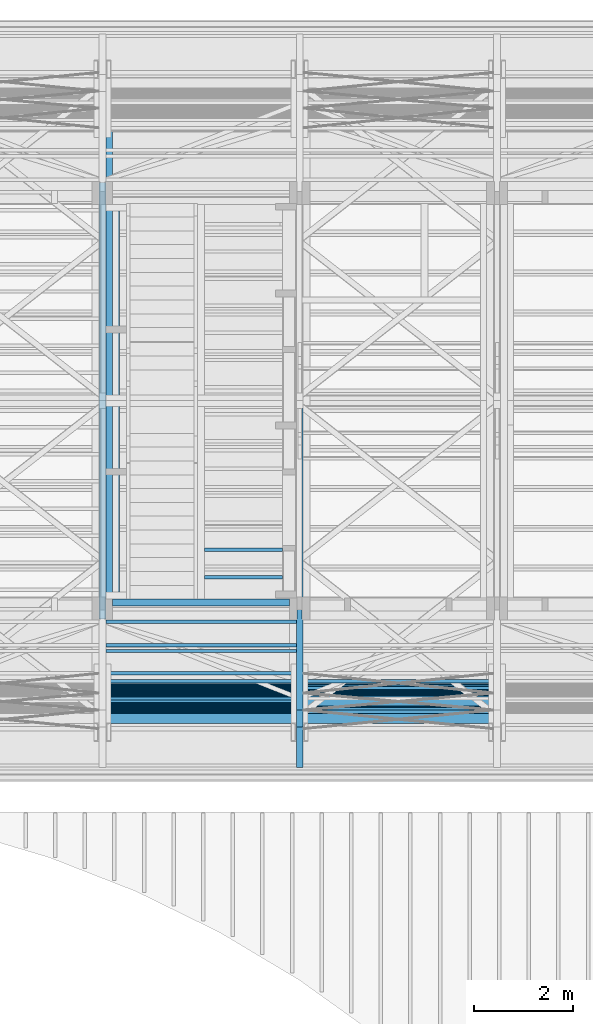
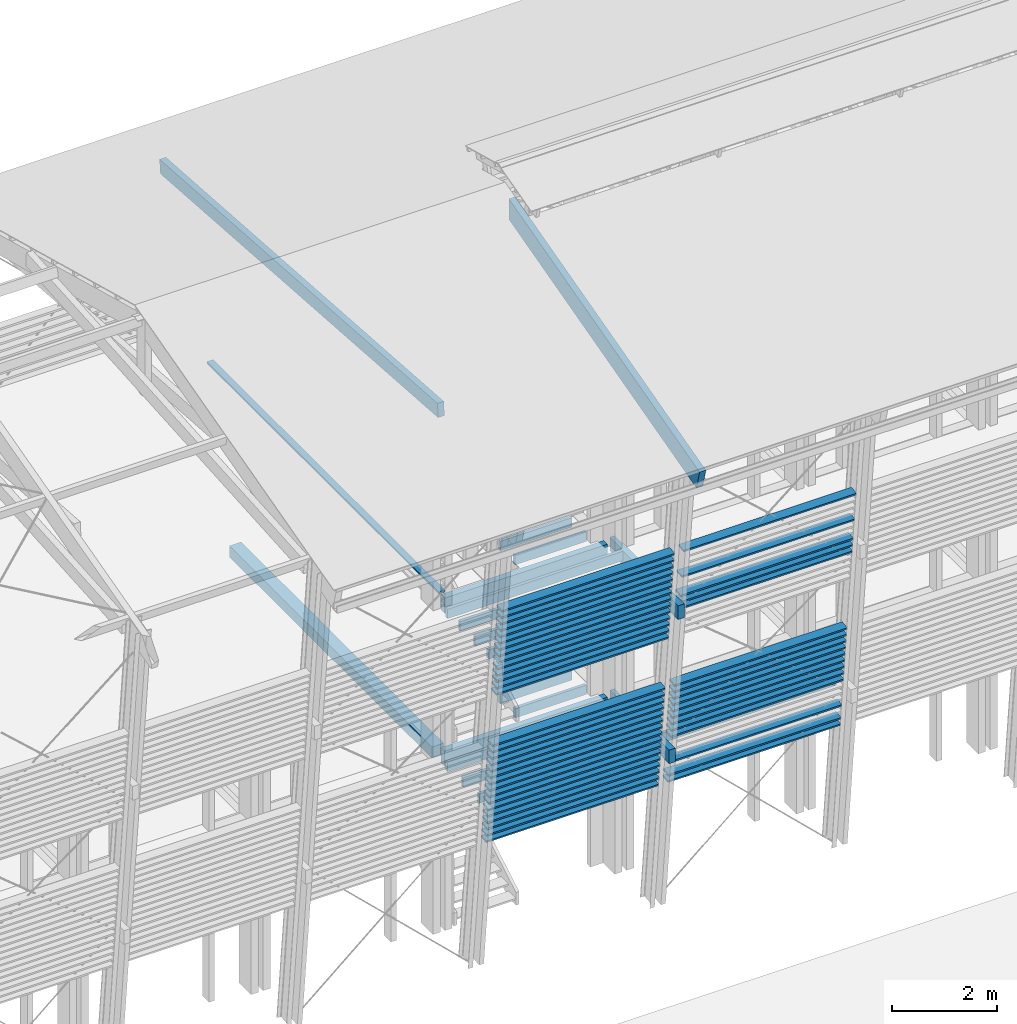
# One storey, part 9 of 48: 67 beams.
"""IFC2X3 building model written with IfcOpenShell, lengths in metres."""

import ifcopenshell
import ifcopenshell.guid

model = None  # the IFC model being written
_history = None  # IfcOwnerHistory: only IFC2X3 demands one
_inside = {}  # id of a spatial element -> (the spatial element, [elements in it])
_under = {}  # id of a project, library or spatial element -> (it, [spatial elements below it])
_declared = {}  # id of a project -> (the project, [libraries it declares])
_typed = {}  # id of a type object -> (the type object, [elements of that type])
_made_of = {}  # id of a material, layer set ... -> (it, [elements and type objects made of it])


def new_model(schema):
    """Start an empty IFC model of exactly this schema.

    Asked for "IFC4X3", IfcOpenShell would pick the latest addendum, in which some entities
    have other attributes; the version numbers below select the first issue.
    IFC2X3 requires an IfcOwnerHistory on every rooted entity: one is made here for all.
    """
    global model, _history
    if schema == "IFC4X3":
        model = ifcopenshell.file(schema_version=(4, 3, 0, 0))
    else:
        model = ifcopenshell.file(schema=schema)
    _inside.clear()
    _under.clear()
    _declared.clear()
    _typed.clear()
    _made_of.clear()
    _history = None
    if model.schema == "IFC2X3":
        org = make("IfcOrganization", Name="unknown")
        user = make(
            "IfcPersonAndOrganization",
            ThePerson=make("IfcPerson", FamilyName="unknown"),
            TheOrganization=org,
        )
        app = make(
            "IfcApplication",
            ApplicationDeveloper=org,
            Version="unknown",
            ApplicationFullName="unknown",
            ApplicationIdentifier="unknown",
        )
        _history = make(
            "IfcOwnerHistory",
            OwningUser=user,
            OwningApplication=app,
            ChangeAction="ADDED",
            CreationDate=0,
        )
    return model


def make(cls, **values):
    """One entity of the class cls with the attributes given. An attribute that is None is left unset."""
    return model.create_entity(
        cls, **{name: value for name, value in values.items() if value is not None}
    )


def rooted(cls, **values):
    """An entity with a GlobalId (a new one), such as an element, a storey or a relation."""
    return make(cls, GlobalId=ifcopenshell.guid.new(), OwnerHistory=_history, **values)


def si_unit(unit_type, name, prefix=None):
    """IfcSIUnit, for example si_unit("LENGTHUNIT", "METRE", prefix="MILLI")."""
    return make("IfcSIUnit", UnitType=unit_type, Prefix=prefix, Name=name)


def assignment(units):
    """IfcUnitAssignment: the units of a project."""
    return None if units is None else make("IfcUnitAssignment", Units=units)


def point(xyz):
    """IfcCartesianPoint."""
    return None if xyz is None else make("IfcCartesianPoint", Coordinates=xyz)


def direction(xyz):
    """IfcDirection."""
    return None if xyz is None else make("IfcDirection", DirectionRatios=xyz)


def frame(location, z_axis=None, x_axis=None):
    """IfcAxis2Placement3D, a coordinate frame: its origin and axes. An axis left out is left unset."""
    return make(
        "IfcAxis2Placement3D",
        Location=point(location),
        Axis=direction(z_axis),
        RefDirection=direction(x_axis),
    )


def origin_with_axes():
    """The frame at (0, 0, 0) with the z axis (0, 0, 1) and the x axis (1, 0, 0) written out."""
    return frame((0.0, 0.0, 0.0), z_axis=(0.0, 0.0, 1.0), x_axis=(1.0, 0.0, 0.0))


def place(relative_to, where):
    """IfcLocalPlacement: puts the frame where relative to a parent placement (None: the world)."""
    return make(
        "IfcLocalPlacement", PlacementRelTo=relative_to, RelativePlacement=where
    )


def context(
    kind, dimensions, precision=None, world=None, true_north=None, identifier=None
):
    """IfcGeometricRepresentationContext, for example the 3D "Model" context."""
    return make(
        "IfcGeometricRepresentationContext",
        ContextIdentifier=identifier,
        ContextType=kind,
        CoordinateSpaceDimension=dimensions,
        Precision=precision,
        WorldCoordinateSystem=world,
        TrueNorth=true_north,
    )


def subcontext(parent, identifier, kind, view, scale=None):
    """IfcGeometricRepresentationSubContext, for example "Body" below "Model"."""
    return make(
        "IfcGeometricRepresentationSubContext",
        ContextIdentifier=identifier,
        ContextType=kind,
        ParentContext=parent,
        TargetScale=scale,
        TargetView=view,
    )


def project(units=None, contexts=None):
    """IfcProject with its units and contexts."""
    return rooted(
        "IfcProject",
        Name="project",
        RepresentationContexts=contexts,
        UnitsInContext=assignment(units),
    )


def spatial(cls, under=None, at=None, **own):
    """A site, building, storey or space (cls), placed at a placement, below another one or the project."""
    s = rooted(cls, ObjectPlacement=at, **own)
    if under is not None:
        _under.setdefault(under.id(), (under, []))[1].append(s)
    return s


def faces_of(points, faces, orient=None, outer=None):
    """IfcFace entities. A face is a list of loops; a loop is a list of indices into points, from 0.

    orient and outer hold one flag for each loop. By default every Orientation is true, the
    first loop of a face is its IfcFaceOuterBound and the others are IfcFaceBound.
    """
    made = []
    for i, loops in enumerate(faces):
        bounds = []
        for j, loop in enumerate(loops):
            is_outer = j == 0 if outer is None else outer[i][j]
            bounds.append(
                make(
                    "IfcFaceOuterBound" if is_outer else "IfcFaceBound",
                    Bound=make("IfcPolyLoop", Polygon=[points[k] for k in loop]),
                    Orientation=True if orient is None else orient[i][j],
                )
            )
        made.append(make("IfcFace", Bounds=bounds))
    return made


def faceted_brep(points, faces, orient=None, outer=None, voids=None):
    """IfcFacetedBrep: a solid bounded by flat faces; with voids (closed shells), ...WithVoids."""
    shared = [point(p) for p in points]
    hull = make("IfcClosedShell", CfsFaces=faces_of(shared, faces, orient, outer))
    if voids is None:
        return make("IfcFacetedBrep", Outer=hull)
    return make(
        "IfcFacetedBrepWithVoids",
        Outer=hull,
        Voids=[
            make(cls, CfsFaces=faces_of(shared, fs, o, b)) for cls, fs, o, b in voids
        ],
    )


def shape(context_of_items, identifier, shape_type, items):
    """IfcShapeRepresentation: the items that make up one representation, for example the "Body"."""
    return make(
        "IfcShapeRepresentation",
        ContextOfItems=context_of_items,
        RepresentationIdentifier=identifier,
        RepresentationType=shape_type,
        Items=items,
    )


def material(Name=None, Category=None):
    """IfcMaterial."""
    return make("IfcMaterial", Name=Name, Category=Category)


def made_of(thing, what):
    """Note that an element or type object is made of a material, layer set ...; save() writes the relation."""
    if what is not None:
        _made_of.setdefault(what.id(), (what, []))[1].append(thing)
    return thing


def element(
    cls,
    number,
    at=None,
    inside=None,
    cuts=None,
    type_object=None,
    material=None,
    context=None,
    identifier="Body",
    shape_type=None,
    held_by="IfcProductDefinitionShape",
    body=None,
    shapes=None,
    **own,
):
    """One element of the class cls, such as IfcWall. Its Tag is "e" and its number.

    at: its placement. inside: the storey or other place that contains it. cuts: it is an
    opening in that element (IfcRelVoidsElement). A single representation is given by context,
    identifier, shape_type and body (its items); several are given by shapes. held_by: the class
    of the entity that holds the representations. save() writes the other relations.
    """
    e = rooted(cls, Tag="e%d" % number, ObjectPlacement=at, **own)
    if body is not None:
        shapes = [shape(context, identifier, shape_type, body)]
    if shapes is not None:
        e.Representation = make(held_by, Representations=shapes)
    if inside is not None:
        _inside.setdefault(inside.id(), (inside, []))[1].append(e)
    if cuts is not None:
        rooted(
            "IfcRelVoidsElement", RelatingBuildingElement=cuts, RelatedOpeningElement=e
        )
    if type_object is not None:
        _typed.setdefault(type_object.id(), (type_object, []))[1].append(e)
    return made_of(e, material)


def aggregate(whole, parts):
    """IfcRelAggregates: a whole, such as a stair, and the parts it consists of."""
    return rooted("IfcRelAggregates", RelatingObject=whole, RelatedObjects=parts)


def save(model, path):
    """Write the relations noted so far, then the file.

    IfcRelAggregates (storeys below a building ...), IfcRelContainedInSpatialStructure (elements
    in a storey), IfcRelDefinesByType, IfcRelAssociatesMaterial and IfcRelDeclares: one each for
    every whole, place, type object, material and project.
    """
    for whole, parts in _under.values():
        aggregate(whole, parts)
    for where, things in _inside.values():
        rooted(
            "IfcRelContainedInSpatialStructure",
            RelatedElements=things,
            RelatingStructure=where,
        )
    for kind, things in _typed.values():
        rooted("IfcRelDefinesByType", RelatedObjects=things, RelatingType=kind)
    for what, things in _made_of.values():
        rooted("IfcRelAssociatesMaterial", RelatedObjects=things, RelatingMaterial=what)
    for by, libraries in _declared.values():
        rooted("IfcRelDeclares", RelatingContext=by, RelatedDefinitions=libraries)
    model.write(path)


model = new_model("IFC2X3")

# Units and contexts
model_context = context("Model", 3, precision=1e-06, world=origin_with_axes(), true_north=direction((0.0, 1.0, 0.0)))
body_context = subcontext(model_context, "Body", "Model", "MODEL_VIEW")
ifc_project = project(units=[si_unit("LENGTHUNIT", "METRE"), si_unit("AREAUNIT", "SQUARE_METRE"), si_unit("VOLUMEUNIT", "CUBIC_METRE"), si_unit("PLANEANGLEUNIT", "RADIAN")], contexts=[model_context])

# Site, building, storey
site_placement = place(None, origin_with_axes())
site = spatial("IfcSite", under=ifc_project, at=site_placement, CompositionType="ELEMENT")
building_placement = place(site_placement, origin_with_axes())
building = spatial("IfcBuilding", under=site, at=building_placement, Name="Building 1", CompositionType="ELEMENT")
storey_placement = place(building_placement, origin_with_axes())
storey = spatial("IfcBuildingStorey", under=building, at=storey_placement, Name="Storey 1", CompositionType="ELEMENT", Elevation=0.0)

# Beams
ifc_material_1 = material(Name="Moabi")
beam_1_placement = place(storey_placement, frame((49.3927439, -195.1944166, 4.6912503), z_axis=(0.0, 0.9945219, 0.1045285), x_axis=(-1.0, 0.0, 0.0)))
element("IfcBeam", 1, at=beam_1_placement, inside=storey, material=ifc_material_1, Name="garde corp", context=body_context, shape_type="Brep", body=[
    faceted_brep([(3.8047069, 0.02, -0.1), (3.8047071, -0.02, -0.1), (0.0, -0.02, -0.1), (0.0, 0.02, -0.1), (3.8047071, -0.02, 0.1), (0.0, -0.02, 0.1), (3.8047071, 0.02, 0.1), (0.0, 0.02, 0.1)], [[[0, 1, 2, 3]], [[1, 4, 5, 2]], [[4, 6, 7, 5]], [[6, 0, 3, 7]], [[1, 0, 6, 4]], [[7, 3, 2, 5]]]),
])
beam_2_placement = place(storey_placement, frame((45.3927439, -195.2947639, 5.6459913), z_axis=(0.0, 0.9945219, 0.1045285), x_axis=(-1.0, 0.0, 0.0)))
element("IfcBeam", 2, at=beam_2_placement, inside=storey, material=ifc_material_1, Name="garde corp", context=body_context, shape_type="Brep", body=[
    faceted_brep([(3.8048055, 0.02, -0.1), (3.8048055, -0.02, -0.1), (0.0, -0.02, -0.1), (0.0, 0.02, -0.1), (3.8048055, -0.02, 0.1), (0.0, -0.02, 0.1), (3.8048055, 0.02, 0.1), (0.0, 0.02, 0.1)], [[[0, 1, 2, 3]], [[1, 4, 5, 2]], [[4, 6, 7, 5]], [[6, 0, 3, 7]], [[1, 0, 6, 4]], [[7, 3, 2, 5]]]),
])
ifc_material_2 = material(Name="GL28h")
beam_3_placement = place(storey_placement, frame((45.5597437, -194.898689, 4.139), z_axis=(0.0, 0.0, 1.0), x_axis=(1.0, 0.0, 0.0)))
element("IfcBeam", 3, at=beam_3_placement, inside=storey, material=ifc_material_2, Name="Solive", context=body_context, shape_type="Brep", body=[
    faceted_brep([(3.86, 0.035, 0.11), (3.86, 0.035, -0.11), (0.0, 0.035, -0.11), (0.0, 0.035, 0.11), (3.86, -0.035, -0.11), (0.0, -0.035, -0.11), (3.86, -0.035, 0.11), (0.0, -0.035, 0.11)], [[[0, 1, 2, 3]], [[1, 4, 5, 2]], [[4, 6, 7, 5]], [[6, 0, 3, 7]], [[1, 0, 6, 4]], [[7, 3, 2, 5]]]),
])
beam_4_placement = place(storey_placement, frame((45.3927441, -195.4954586, 7.5554733), z_axis=(0.0, 0.9945219, 0.1045285), x_axis=(-1.0, 0.0, 0.0)))
element("IfcBeam", 4, at=beam_4_placement, inside=storey, material=ifc_material_1, Name="garde corp", context=body_context, shape_type="Brep", body=[
    faceted_brep([(3.806, 0.02, -0.1), (3.806, -0.02, -0.1), (0.0, -0.02, -0.1), (0.0, 0.02, -0.1), (3.806, -0.02, 0.1), (0.0, -0.02, 0.1), (3.806, 0.02, 0.1), (0.0, 0.02, 0.1)], [[[0, 1, 2, 3]], [[1, 4, 5, 2]], [[4, 6, 7, 5]], [[6, 0, 3, 7]], [[1, 0, 6, 4]], [[7, 3, 2, 5]]]),
])
for number, where, z_axis, x_axis, name in (
    (5, (45.3927439, -195.1275184, 4.0547563), (0.0, 0.9945219, 0.1045285), (-1.0, 0.0, 0.0), "garde corp"),
    (6, (45.3927439, -195.1442429, 4.2138798), (0.0, 0.9945219, 0.1045285), (-1.0, 0.0, 0.0), "garde corp"),
):
    element("IfcBeam", number, at=place(storey_placement, frame(where, z_axis=z_axis, x_axis=x_axis)), inside=storey, material=ifc_material_1, Name=name, context=body_context, shape_type="Brep", body=[
        faceted_brep([(3.8048051, 0.02, -0.1), (3.8048051, -0.02, -0.1), (0.0, -0.02, -0.1), (0.0, 0.02, -0.1), (3.8048051, -0.02, 0.1), (0.0, -0.02, 0.1), (3.8048051, 0.02, 0.1), (0.0, 0.02, 0.1)], [[[0, 1, 2, 3]], [[1, 4, 5, 2]], [[4, 6, 7, 5]], [[6, 0, 3, 7]], [[1, 0, 6, 4]], [[7, 3, 2, 5]]]),
    ])
beam_5_placement = place(storey_placement, frame((45.4897437, -193.1896515, 4.089), z_axis=(0.0, 0.0, 1.0), x_axis=(0.0, -1.0, 0.0)))
element("IfcBeam", 7, at=beam_5_placement, inside=storey, material=ifc_material_2, Name="Sommier Coursive", context=body_context, shape_type="Brep", body=[
    faceted_brep([(0.0, 0.05, 0.16), (0.44, 0.05, 0.16), (0.44, 0.05, -0.16), (0.0, 0.05, -0.16), (0.44, 0.07, 0.16), (0.44, 0.07, -0.16), (0.0, -0.05, 0.16), (0.44, -0.05, 0.16), (0.44, -0.07, 0.16), (2.2900003, -0.07, 0.16), (2.2900003, 0.07, 0.16), (0.0, -0.05, -0.16), (0.44, -0.05, -0.16), (0.44, -0.07, -0.16), (2.2900003, 0.07, -0.16), (2.2900003, -0.07, -0.16)], [[[0, 1, 2, 3]], [[1, 4, 5, 2]], [[4, 1, 0, 6, 7, 8, 9, 10]], [[0, 3, 11, 6]], [[11, 12, 7, 6]], [[12, 13, 8, 7]], [[2, 5, 14, 15, 13, 12, 11, 3]], [[8, 13, 15, 9]], [[5, 4, 10, 14]], [[10, 9, 15, 14]]]),
])
beam_6_placement = place(storey_placement, frame((43.5597437, -192.7830698, 7.699), z_axis=(0.0, 0.0, 1.0), x_axis=(1.0, 0.0, 0.0)))
element("IfcBeam", 8, at=beam_6_placement, inside=storey, material=ifc_material_2, Name="Solive", context=body_context, shape_type="Brep", body=[
    faceted_brep([(1.58, 0.035, -0.11), (1.58, -0.035, -0.11), (0.0, -0.035, -0.11), (0.0, 0.035, -0.11), (1.58, -0.035, 0.11), (0.0, -0.035, 0.11), (1.58, 0.035, 0.11), (0.0, 0.035, 0.11)], [[[0, 1, 2, 3]], [[1, 4, 5, 2]], [[4, 6, 7, 5]], [[6, 0, 3, 7]], [[0, 6, 4, 1]], [[5, 7, 3, 2]]]),
])
beam_7_placement = place(storey_placement, frame((45.3927441, -195.5121831, 7.7145968), z_axis=(0.0, 0.9945219, 0.1045285), x_axis=(-1.0, 0.0, 0.0)))
element("IfcBeam", 9, at=beam_7_placement, inside=storey, material=ifc_material_1, Name="garde corp", context=body_context, shape_type="Brep", body=[
    faceted_brep([(3.806, 0.02, -0.1), (3.806, -0.02, -0.1), (0.0, -0.02, -0.1), (0.0, 0.02, -0.1), (3.806, -0.02, 0.1), (0.0, -0.02, 0.1), (3.806, 0.02, 0.1), (0.0, 0.02, 0.1)], [[[0, 1, 2, 3]], [[1, 4, 5, 2]], [[4, 6, 7, 5]], [[6, 0, 3, 7]], [[1, 0, 6, 4]], [[7, 3, 2, 5]]]),
])
beam_8_placement = place(storey_placement, frame((45.3927439, -195.1944166, 4.6912503), z_axis=(0.0, 0.9945219, 0.1045285), x_axis=(-1.0, 0.0, 0.0)))
element("IfcBeam", 10, at=beam_8_placement, inside=storey, material=ifc_material_1, Name="garde corp", context=body_context, shape_type="Brep", body=[
    faceted_brep([(3.8047069, 0.02, -0.1), (3.8047071, -0.02, -0.1), (0.0, -0.02, -0.1), (0.0, 0.02, -0.1), (3.8047071, -0.02, 0.1), (0.0, -0.02, 0.1), (3.8047071, 0.02, 0.1), (0.0, 0.02, 0.1)], [[[0, 1, 2, 3]], [[1, 4, 5, 2]], [[4, 6, 7, 5]], [[6, 0, 3, 7]], [[1, 0, 6, 4]], [[7, 3, 2, 5]]]),
])
beam_9_placement = place(storey_placement, frame((45.3927439, -195.2278657, 5.0094973), z_axis=(0.0, 0.9945219, 0.1045285), x_axis=(-1.0, 0.0, 0.0)))
element("IfcBeam", 11, at=beam_9_placement, inside=storey, material=ifc_material_1, Name="garde corp", context=body_context, shape_type="Brep", body=[
    faceted_brep([(3.8047069, 0.02, -0.1), (3.8047071, -0.02, -0.1), (0.0, -0.02, -0.1), (0.0, 0.02, -0.1), (3.8047069, -0.02, 0.1), (0.0, -0.02, 0.1), (3.8047071, 0.02, 0.1), (0.0, 0.02, 0.1)], [[[0, 1, 2, 3]], [[1, 4, 5, 2]], [[4, 6, 7, 5]], [[6, 0, 3, 7]], [[1, 0, 6, 4]], [[7, 3, 2, 5]]]),
])
beam_10_placement = place(storey_placement, frame((49.3927439, -195.0940693, 3.7365093), z_axis=(0.0, 0.9945219, 0.1045285), x_axis=(-1.0, 0.0, 0.0)))
element("IfcBeam", 12, at=beam_10_placement, inside=storey, material=ifc_material_1, Name="garde corp", context=body_context, shape_type="Brep", body=[
    faceted_brep([(3.8047069, 0.02, -0.1), (3.8047071, -0.02, -0.1), (0.0, -0.02, -0.1), (0.0, 0.02, -0.1), (3.8047071, -0.02, 0.1), (0.0, -0.02, 0.1), (3.8047071, 0.02, 0.1), (0.0, 0.02, 0.1)], [[[0, 1, 2, 3]], [[1, 4, 5, 2]], [[4, 6, 7, 5]], [[6, 0, 3, 7]], [[1, 0, 6, 4]], [[7, 3, 2, 5]]]),
])
beam_11_placement = place(storey_placement, frame((49.3927439, -195.1609675, 4.3730033), z_axis=(0.0, 0.9945219, 0.1045285), x_axis=(-1.0, 0.0, 0.0)))
element("IfcBeam", 13, at=beam_11_placement, inside=storey, material=ifc_material_1, Name="garde corp", context=body_context, shape_type="Brep", body=[
    faceted_brep([(3.8048051, 0.02, -0.1), (3.8048051, -0.02, -0.1), (0.0, -0.02, -0.1), (0.0, 0.02, -0.1), (3.8048051, -0.02, 0.1), (0.0, -0.02, 0.1), (3.8048051, 0.02, 0.1), (0.0, 0.02, 0.1)], [[[0, 1, 2, 3]], [[1, 4, 5, 2]], [[4, 6, 7, 5]], [[6, 0, 3, 7]], [[1, 0, 6, 4]], [[7, 3, 2, 5]]]),
])
beam_12_placement = place(storey_placement, frame((49.3927439, -195.0606202, 3.4182623), z_axis=(0.0, 0.9945219, 0.1045285), x_axis=(-1.0, 0.0, 0.0)))
element("IfcBeam", 14, at=beam_12_placement, inside=storey, material=ifc_material_1, Name="garde corp", context=body_context, shape_type="Brep", body=[
    faceted_brep([(3.8047069, 0.02, -0.1), (3.8047069, -0.02, -0.1), (0.0, -0.02, -0.1), (0.0, 0.02, -0.1), (3.8047069, -0.02, 0.1), (0.0, -0.02, 0.1), (3.8047071, 0.02, 0.1), (0.0, 0.02, 0.1)], [[[0, 1, 2, 3]], [[1, 4, 5, 2]], [[4, 6, 7, 5]], [[6, 0, 3, 7]], [[1, 0, 6, 4]], [[7, 3, 2, 5]]]),
])
beam_13_placement = place(storey_placement, frame((49.3927441, -195.5289077, 7.8737203), z_axis=(0.0, 0.9945219, 0.1045285), x_axis=(-1.0, 0.0, 0.0)))
element("IfcBeam", 15, at=beam_13_placement, inside=storey, material=ifc_material_1, Name="garde corp", context=body_context, shape_type="Brep", body=[
    faceted_brep([(3.806, 0.02, -0.1), (3.806, -0.02, -0.1), (0.0, -0.02, -0.1), (0.0, 0.02, -0.1), (3.806, -0.02, 0.1), (0.0, -0.02, 0.1), (3.806, 0.02, 0.1), (0.0, 0.02, 0.1)], [[[0, 1, 2, 3]], [[1, 4, 5, 2]], [[4, 6, 7, 5]], [[6, 0, 3, 7]], [[1, 0, 6, 4]], [[7, 3, 2, 5]]]),
])
beam_14_placement = place(storey_placement, frame((49.3927439, -195.2613148, 5.3277443), z_axis=(0.0, 0.9945219, 0.1045285), x_axis=(-1.0, 0.0, 0.0)))
element("IfcBeam", 16, at=beam_14_placement, inside=storey, material=ifc_material_1, Name="garde corp", context=body_context, shape_type="Brep", body=[
    faceted_brep([(3.8048055, 0.02, -0.1), (3.8048055, -0.02, -0.1), (0.0, -0.02, -0.1), (0.0, 0.02, -0.1), (3.8048055, -0.02, 0.1), (0.0, -0.02, 0.1), (3.8048055, 0.02, 0.1), (0.0, 0.02, 0.1)], [[[0, 1, 2, 3]], [[1, 4, 5, 2]], [[4, 6, 7, 5]], [[6, 0, 3, 7]], [[1, 0, 6, 4]], [[7, 3, 2, 5]]]),
])
beam_15_placement = place(storey_placement, frame((49.3927439, -195.2278657, 5.0094973), z_axis=(0.0, 0.9945219, 0.1045285), x_axis=(-1.0, 0.0, 0.0)))
element("IfcBeam", 17, at=beam_15_placement, inside=storey, material=ifc_material_1, Name="garde corp", context=body_context, shape_type="Brep", body=[
    faceted_brep([(3.8047069, 0.02, -0.1), (3.8047071, -0.02, -0.1), (0.0, -0.02, -0.1), (0.0, 0.02, -0.1), (3.8047069, -0.02, 0.1), (0.0, -0.02, 0.1), (3.8047071, 0.02, 0.1), (0.0, 0.02, 0.1)], [[[0, 1, 2, 3]], [[1, 4, 5, 2]], [[4, 6, 7, 5]], [[6, 0, 3, 7]], [[1, 0, 6, 4]], [[7, 3, 2, 5]]]),
])
beam_16_placement = place(storey_placement, frame((49.3927437, -195.6459796, 8.9875849), z_axis=(0.0, 0.9945219, 0.1045285), x_axis=(-1.0, 0.0, 0.0)))
element("IfcBeam", 18, at=beam_16_placement, inside=storey, material=ifc_material_1, Name="garde corp", context=body_context, shape_type="Brep", body=[
    faceted_brep([(3.806, 0.02, -0.1), (3.806, -0.02, -0.1), (0.0, -0.02, -0.1), (0.0, 0.02, -0.1), (3.806, -0.02, 0.1), (0.0, -0.02, 0.1), (3.806, 0.02, 0.1), (0.0, 0.02, 0.1)], [[[0, 1, 2, 3]], [[1, 4, 5, 2]], [[4, 6, 7, 5]], [[6, 0, 3, 7]], [[1, 0, 6, 4]], [[7, 3, 2, 5]]]),
])
beam_17_placement = place(storey_placement, frame((49.3927439, -195.0438956, 3.2591388), z_axis=(0.0, 0.9945219, 0.1045285), x_axis=(-1.0, 0.0, 0.0)))
element("IfcBeam", 19, at=beam_17_placement, inside=storey, material=ifc_material_1, Name="garde corp", context=body_context, shape_type="Brep", body=[
    faceted_brep([(3.8048051, 0.02, -0.1), (3.8048051, -0.02, -0.1), (0.0, -0.02, -0.1), (0.0, 0.02, -0.1), (3.8048051, -0.02, 0.1), (0.0, -0.02, 0.1), (3.8048051, 0.02, 0.1), (0.0, 0.02, 0.1)], [[[0, 1, 2, 3]], [[1, 4, 5, 2]], [[4, 6, 7, 5]], [[6, 0, 3, 7]], [[1, 0, 6, 4]], [[7, 3, 2, 5]]]),
])
beam_18_placement = place(storey_placement, frame((49.3927439, -195.2111412, 4.8503738), z_axis=(0.0, 0.9945219, 0.1045285), x_axis=(-1.0, 0.0, 0.0)))
element("IfcBeam", 20, at=beam_18_placement, inside=storey, material=ifc_material_1, Name="garde corp", context=body_context, shape_type="Brep", body=[
    faceted_brep([(3.8048055, 0.02, -0.1), (3.8048055, -0.02, -0.1), (0.0, -0.02, -0.1), (0.0, 0.02, -0.1), (3.8048055, -0.02, 0.1), (0.0, -0.02, 0.1), (3.8048055, 0.02, 0.1), (0.0, 0.02, 0.1)], [[[0, 1, 2, 3]], [[1, 4, 5, 2]], [[4, 6, 7, 5]], [[6, 0, 3, 7]], [[1, 0, 6, 4]], [[7, 3, 2, 5]]]),
])
beam_19_placement = place(storey_placement, frame((49.3927439, -195.2780394, 5.4868678), z_axis=(0.0, 0.9945219, 0.1045285), x_axis=(-1.0, 0.0, 0.0)))
element("IfcBeam", 21, at=beam_19_placement, inside=storey, material=ifc_material_1, Name="garde corp", context=body_context, shape_type="Brep", body=[
    faceted_brep([(3.8047069, 0.02, -0.1), (3.8047069, -0.02, -0.1), (0.0, -0.02, -0.1), (0.0, 0.02, -0.1), (3.8047069, -0.02, 0.1), (0.0, -0.02, 0.1), (3.8047071, 0.02, 0.1), (0.0, 0.02, 0.1)], [[[0, 1, 2, 3]], [[1, 4, 5, 2]], [[4, 6, 7, 5]], [[6, 0, 3, 7]], [[1, 0, 6, 4]], [[7, 3, 2, 5]]]),
])
for number, where, z_axis, x_axis, name in (
    (22, (45.3927441, -195.5790813, 8.3510909), (0.0, 0.9945219, 0.1045285), (-1.0, 0.0, 0.0), "garde corp"),
    (23, (49.3927441, -195.5121831, 7.7145968), (0.0, 0.9945219, 0.1045285), (-1.0, 0.0, 0.0), "garde corp"),
):
    element("IfcBeam", number, at=place(storey_placement, frame(where, z_axis=z_axis, x_axis=x_axis)), inside=storey, material=ifc_material_1, Name=name, context=body_context, shape_type="Brep", body=[
        faceted_brep([(3.806, 0.02, -0.1), (3.806, -0.02, -0.1), (0.0, -0.02, -0.1), (0.0, 0.02, -0.1), (3.806, -0.02, 0.1), (0.0, -0.02, 0.1), (3.806, 0.02, 0.1), (0.0, 0.02, 0.1)], [[[0, 1, 2, 3]], [[1, 4, 5, 2]], [[4, 6, 7, 5]], [[6, 0, 3, 7]], [[1, 0, 6, 4]], [[7, 3, 2, 5]]]),
    ])
beam_20_placement = place(storey_placement, frame((49.3927439, -195.2445903, 5.1686208), z_axis=(0.0, 0.9945219, 0.1045285), x_axis=(-1.0, 0.0, 0.0)))
element("IfcBeam", 24, at=beam_20_placement, inside=storey, material=ifc_material_1, Name="garde corp", context=body_context, shape_type="Brep", body=[
    faceted_brep([(3.8048055, 0.02, -0.1), (3.8048055, -0.02, -0.1), (0.0, -0.02, -0.1), (0.0, 0.02, -0.1), (3.8048055, -0.02, 0.1), (0.0, -0.02, 0.1), (3.8048055, 0.02, 0.1), (0.0, 0.02, 0.1)], [[[0, 1, 2, 3]], [[1, 4, 5, 2]], [[4, 6, 7, 5]], [[6, 0, 3, 7]], [[1, 0, 6, 4]], [[7, 3, 2, 5]]]),
])
for number, where, z_axis, x_axis, name in (
    (25, (49.3927441, -195.5790813, 8.3510909), (0.0, 0.9945219, 0.1045285), (-1.0, 0.0, 0.0), "garde corp"),
    (26, (49.3927441, -195.4954586, 7.5554733), (0.0, 0.9945219, 0.1045285), (-1.0, 0.0, 0.0), "garde corp"),
):
    element("IfcBeam", number, at=place(storey_placement, frame(where, z_axis=z_axis, x_axis=x_axis)), inside=storey, material=ifc_material_1, Name=name, context=body_context, shape_type="Brep", body=[
        faceted_brep([(3.806, 0.02, -0.1), (3.806, -0.02, -0.1), (0.0, -0.02, -0.1), (0.0, 0.02, -0.1), (3.806, -0.02, 0.1), (0.0, -0.02, 0.1), (3.806, 0.02, 0.1), (0.0, 0.02, 0.1)], [[[0, 1, 2, 3]], [[1, 4, 5, 2]], [[4, 6, 7, 5]], [[6, 0, 3, 7]], [[1, 0, 6, 4]], [[7, 3, 2, 5]]]),
    ])
beam_21_placement = place(storey_placement, frame((49.3927439, -195.177692, 4.5321268), z_axis=(0.0, 0.9945219, 0.1045285), x_axis=(-1.0, 0.0, 0.0)))
element("IfcBeam", 27, at=beam_21_placement, inside=storey, material=ifc_material_1, Name="garde corp", context=body_context, shape_type="Brep", body=[
    faceted_brep([(3.8047069, 0.02, -0.1), (3.8047071, -0.02, -0.1), (0.0, -0.02, -0.1), (0.0, 0.02, -0.1), (3.8047069, -0.02, 0.1), (0.0, -0.02, 0.1), (3.8047071, 0.02, 0.1), (0.0, 0.02, 0.1)], [[[0, 1, 2, 3]], [[1, 4, 5, 2]], [[4, 6, 7, 5]], [[6, 0, 3, 7]], [[1, 0, 6, 4]], [[7, 3, 2, 5]]]),
])
beam_22_placement = place(storey_placement, frame((49.3927439, -195.2947639, 5.6459913), z_axis=(0.0, 0.9945219, 0.1045285), x_axis=(-1.0, 0.0, 0.0)))
element("IfcBeam", 28, at=beam_22_placement, inside=storey, material=ifc_material_1, Name="garde corp", context=body_context, shape_type="Brep", body=[
    faceted_brep([(3.8048055, 0.02, -0.1), (3.8048055, -0.02, -0.1), (0.0, -0.02, -0.1), (0.0, 0.02, -0.1), (3.8048055, -0.02, 0.1), (0.0, -0.02, 0.1), (3.8048055, 0.02, 0.1), (0.0, 0.02, 0.1)], [[[0, 1, 2, 3]], [[1, 4, 5, 2]], [[4, 6, 7, 5]], [[6, 0, 3, 7]], [[1, 0, 6, 4]], [[7, 3, 2, 5]]]),
])
beam_23_placement = place(storey_placement, frame((41.4897441, -184.7864885, 8.182), z_axis=(1.0, 0.0, 0.0), x_axis=(0.0, -1.0, 0.0)))
element("IfcBeam", 29, at=beam_23_placement, inside=storey, material=ifc_material_1, Name="garde corp", context=body_context, shape_type="Brep", body=[
    faceted_brep([(8.843163, -0.02, 0.07), (8.843163, 0.02, 0.07), (0.0, 0.02, 0.07), (0.0, -0.02, 0.07), (8.843163, 0.02, -0.07), (0.0, 0.02, -0.07), (8.843163, -0.02, -0.07), (0.0, -0.02, -0.07)], [[[0, 1, 2, 3]], [[1, 4, 5, 2]], [[4, 6, 7, 5]], [[6, 0, 3, 7]], [[1, 0, 6, 4]], [[7, 3, 2, 5]]]),
])
beam_24_placement = place(storey_placement, frame((45.3927441, -195.629255, 8.8284614), z_axis=(0.0, 0.9945219, 0.1045285), x_axis=(-1.0, 0.0, 0.0)))
element("IfcBeam", 30, at=beam_24_placement, inside=storey, material=ifc_material_1, Name="garde corp", context=body_context, shape_type="Brep", body=[
    faceted_brep([(3.806, 0.02, -0.1), (3.806, -0.02, -0.1), (0.0, -0.02, -0.1), (0.0, 0.02, -0.1), (3.806, -0.02, 0.1), (0.0, -0.02, 0.1), (3.806, 0.02, 0.1), (0.0, 0.02, 0.1)], [[[0, 1, 2, 3]], [[1, 4, 5, 2]], [[4, 6, 7, 5]], [[6, 0, 3, 7]], [[1, 0, 6, 4]], [[7, 3, 2, 5]]]),
])
beam_25_placement = place(storey_placement, frame((45.3927439, -195.0438956, 3.2591388), z_axis=(0.0, 0.9945219, 0.1045285), x_axis=(-1.0, 0.0, 0.0)))
element("IfcBeam", 31, at=beam_25_placement, inside=storey, material=ifc_material_1, Name="garde corp", context=body_context, shape_type="Brep", body=[
    faceted_brep([(3.8048051, 0.02, -0.1), (3.8048051, -0.02, -0.1), (0.0, -0.02, -0.1), (0.0, 0.02, -0.1), (3.8048051, -0.02, 0.1), (0.0, -0.02, 0.1), (3.8048051, 0.02, 0.1), (0.0, 0.02, 0.1)], [[[0, 1, 2, 3]], [[1, 4, 5, 2]], [[4, 6, 7, 5]], [[6, 0, 3, 7]], [[1, 0, 6, 4]], [[7, 3, 2, 5]]]),
])
beam_26_placement = place(storey_placement, frame((45.3927441, -195.5958059, 8.5102144), z_axis=(0.0, 0.9945219, 0.1045285), x_axis=(-1.0, 0.0, 0.0)))
element("IfcBeam", 32, at=beam_26_placement, inside=storey, material=ifc_material_1, Name="garde corp", context=body_context, shape_type="Brep", body=[
    faceted_brep([(3.806, 0.02, -0.1), (3.806, -0.02, -0.1), (0.0, -0.02, -0.1), (0.0, 0.02, -0.1), (3.806, -0.02, 0.1), (0.0, -0.02, 0.1), (3.806, 0.02, 0.1), (0.0, 0.02, 0.1)], [[[0, 1, 2, 3]], [[1, 4, 5, 2]], [[4, 6, 7, 5]], [[6, 0, 3, 7]], [[1, 0, 6, 4]], [[7, 3, 2, 5]]]),
])
beam_27_placement = place(storey_placement, frame((43.5597437, -192.2330698, 7.699), z_axis=(0.0, 0.0, 1.0), x_axis=(1.0, 0.0, 0.0)))
element("IfcBeam", 33, at=beam_27_placement, inside=storey, material=ifc_material_2, Name="Solive", context=body_context, shape_type="Brep", body=[
    faceted_brep([(1.58, 0.035, -0.11), (1.58, -0.035, -0.11), (0.0, -0.035, -0.11), (0.0, 0.035, -0.11), (1.58, -0.035, 0.11), (0.0, -0.035, 0.11), (1.58, 0.035, 0.11), (0.0, 0.035, 0.11)], [[[0, 1, 2, 3]], [[1, 4, 5, 2]], [[4, 6, 7, 5]], [[6, 0, 3, 7]], [[0, 6, 4, 1]], [[5, 7, 3, 2]]]),
])
beam_28_placement = place(storey_placement, frame((41.5597437, -193.6846515, 7.699), z_axis=(0.0, 0.0, 1.0), x_axis=(1.0, 0.0, 0.0)))
element("IfcBeam", 34, at=beam_28_placement, inside=storey, material=ifc_material_2, Name="Solive", context=body_context, shape_type="Brep", body=[
    faceted_brep([(3.86, 0.035, 0.11), (3.86, 0.035, -0.11), (0.0, 0.035, -0.11), (0.0, 0.035, 0.11), (3.86, -0.035, -0.11), (0.0, -0.035, -0.11), (3.86, -0.035, 0.11), (0.0, -0.035, 0.11)], [[[0, 1, 2, 3]], [[1, 4, 5, 2]], [[4, 6, 7, 5]], [[6, 0, 3, 7]], [[1, 0, 6, 4]], [[7, 3, 2, 5]]]),
])
beam_29_placement = place(storey_placement, frame((41.5597437, -195.2446515, 7.699), z_axis=(0.0, 0.0, 1.0), x_axis=(1.0, 0.0, 0.0)))
element("IfcBeam", 35, at=beam_29_placement, inside=storey, material=ifc_material_2, Name="Solive", context=body_context, shape_type="Brep", body=[
    faceted_brep([(0.0, -0.035, -0.11), (0.0, -0.035, 0.11), (0.0, 0.035, 0.11), (0.0, 0.035, -0.11), (3.8599996, -0.035, 0.11), (3.8599996, 0.035, 0.11), (3.8599996, -0.035, -0.11), (3.8599996, 0.035, -0.11)], [[[0, 1, 2, 3]], [[2, 1, 4, 5]], [[1, 0, 6, 4]], [[0, 3, 7, 6]], [[3, 2, 5, 7]], [[7, 5, 4, 6]]]),
])
for number, where, z_axis, x_axis in (
    (36, (41.5597437, -194.1646515, 7.699), (0.0, 0.0, 1.0), (1.0, 0.0, 0.0)),
    (37, (41.5597437, -194.7346515, 7.699), (0.0, 0.0, 1.0), (1.0, 0.0, 0.0)),
    (38, (41.5597437, -194.898689, 4.139), (0.0, 0.0, 1.0), (1.0, 0.0, 0.0)),
):
    element("IfcBeam", number, at=place(storey_placement, frame(where, z_axis=z_axis, x_axis=x_axis)), inside=storey, material=ifc_material_2, Name="Solive", context=body_context, shape_type="Brep", body=[
        faceted_brep([(3.86, 0.035, 0.11), (3.86, 0.035, -0.11), (0.0, 0.035, -0.11), (0.0, 0.035, 0.11), (3.86, -0.035, -0.11), (0.0, -0.035, -0.11), (3.86, -0.035, 0.11), (0.0, -0.035, 0.11)], [[[0, 1, 2, 3]], [[1, 4, 5, 2]], [[4, 6, 7, 5]], [[6, 0, 3, 7]], [[1, 0, 6, 4]], [[7, 3, 2, 5]]]),
    ])
beam_30_placement = place(storey_placement, frame((41.7097437, -185.3664877, 4.085), z_axis=(0.0, 0.0, 1.0), x_axis=(0.0, -1.0, 0.0)))
element("IfcBeam", 39, at=beam_30_placement, inside=storey, material=ifc_material_2, Name="Buton", context=body_context, shape_type="Brep", body=[
    faceted_brep([(7.7231634, -0.13, -0.13), (0.0, -0.13, -0.13), (0.0, 0.13, -0.13), (7.7231634, 0.13, -0.13), (0.0, -0.13, 0.13), (0.0, 0.13, 0.13), (7.7231634, -0.13, 0.13), (7.7231634, 0.13, 0.13)], [[[0, 1, 2, 3]], [[2, 1, 4, 5]], [[1, 0, 6, 4]], [[5, 4, 6, 7]], [[0, 3, 7, 6]], [[3, 2, 5, 7]]]),
])
for number, where, z_axis, x_axis in (
    (40, (41.5597437, -194.2816702, 4.139), (0.0, 0.0, 1.0), (1.0, 0.0, 0.0)),
    (41, (41.5597437, -193.6846515, 4.139), (0.0, 0.0, 1.0), (1.0, 0.0, 0.0)),
):
    element("IfcBeam", number, at=place(storey_placement, frame(where, z_axis=z_axis, x_axis=x_axis)), inside=storey, material=ifc_material_2, Name="Solive", context=body_context, shape_type="Brep", body=[
        faceted_brep([(3.86, 0.035, 0.11), (3.86, 0.035, -0.11), (0.0, 0.035, -0.11), (0.0, 0.035, 0.11), (3.86, -0.035, -0.11), (0.0, -0.035, -0.11), (3.86, -0.035, 0.11), (0.0, -0.035, 0.11)], [[[0, 1, 2, 3]], [[1, 4, 5, 2]], [[4, 6, 7, 5]], [[6, 0, 3, 7]], [[1, 0, 6, 4]], [[7, 3, 2, 5]]]),
    ])
for number, where, z_axis, x_axis in (
    (42, (43.5597437, -192.2330698, 4.139), (0.0, 0.0, 1.0), (1.0, 0.0, 0.0)),
    (43, (43.5597437, -192.7830698, 4.139), (0.0, 0.0, 1.0), (1.0, 0.0, 0.0)),
):
    element("IfcBeam", number, at=place(storey_placement, frame(where, z_axis=z_axis, x_axis=x_axis)), inside=storey, material=ifc_material_2, Name="Solive", context=body_context, shape_type="Brep", body=[
        faceted_brep([(1.58, 0.035, -0.11), (1.58, -0.035, -0.11), (0.0, -0.035, -0.11), (0.0, 0.035, -0.11), (1.58, -0.035, 0.11), (0.0, -0.035, 0.11), (1.58, 0.035, 0.11), (0.0, 0.035, 0.11)], [[[0, 1, 2, 3]], [[1, 4, 5, 2]], [[4, 6, 7, 5]], [[6, 0, 3, 7]], [[0, 6, 4, 1]], [[5, 7, 3, 2]]]),
    ])
beam_31_placement = place(storey_placement, frame((45.3927439, -195.0940693, 3.7365093), z_axis=(0.0, 0.9945219, 0.1045285), x_axis=(-1.0, 0.0, 0.0)))
element("IfcBeam", 44, at=beam_31_placement, inside=storey, material=ifc_material_1, Name="garde corp", context=body_context, shape_type="Brep", body=[
    faceted_brep([(3.8047069, 0.02, -0.1), (3.8047071, -0.02, -0.1), (0.0, -0.02, -0.1), (0.0, 0.02, -0.1), (3.8047071, -0.02, 0.1), (0.0, -0.02, 0.1), (3.8047071, 0.02, 0.1), (0.0, 0.02, 0.1)], [[[0, 1, 2, 3]], [[1, 4, 5, 2]], [[4, 6, 7, 5]], [[6, 0, 3, 7]], [[1, 0, 6, 4]], [[7, 3, 2, 5]]]),
])
beam_32_placement = place(storey_placement, frame((41.6297437, -182.7509358, 11.4619485), z_axis=(0.0, 0.070184, 0.9975341), x_axis=(0.0, -0.9975341, 0.070184)))
element("IfcBeam", 45, at=beam_32_placement, inside=storey, material=ifc_material_2, Name="Entrait", context=body_context, shape_type="Brep", body=[
    faceted_brep([(0.0, 0.07, 0.16), (0.0110373, 0.07, -0.16), (0.0110373, -0.07, -0.16), (0.0, -0.07, 0.16), (10.6243711, 0.07, -0.16), (10.6243711, -0.07, -0.16), (10.6243711, 0.07, 0.16), (10.6243711, -0.07, 0.16)], [[[0, 1, 2, 3]], [[2, 1, 4, 5]], [[1, 0, 6, 4]], [[5, 4, 6, 7]], [[3, 2, 5, 7]], [[0, 3, 7, 6]]]),
])
beam_33_placement = place(storey_placement, frame((45.4897437, -193.1896515, 7.649), z_axis=(0.0, 0.0, 1.0), x_axis=(0.0, -1.0, 0.0)))
element("IfcBeam", 46, at=beam_33_placement, inside=storey, material=ifc_material_2, Name="Sommier Coursive", context=body_context, shape_type="Brep", body=[
    faceted_brep([(0.0, -0.05, -0.16), (0.44, -0.05, -0.16), (0.44, -0.05, 0.16), (0.0, -0.05, 0.16), (0.44, -0.07, -0.16), (0.44, -0.07, 0.16), (0.0, 0.05, 0.16), (0.0, 0.05, -0.16), (2.6285375, -0.07, 0.16), (2.6285375, 0.07, 0.16), (0.44, 0.07, 0.16), (0.44, 0.05, 0.16), (0.44, 0.05, -0.16), (0.44, 0.07, -0.16), (2.6285375, -0.07, -0.16), (2.6285375, 0.07, -0.16)], [[[0, 1, 2, 3]], [[1, 4, 5, 2]], [[0, 3, 6, 7]], [[3, 2, 5, 8, 9, 10, 11, 6]], [[6, 11, 12, 7]], [[11, 10, 13, 12]], [[5, 4, 14, 8]], [[1, 0, 7, 12, 13, 15, 14, 4]], [[13, 10, 9, 15]], [[9, 8, 14, 15]]]),
])
beam_34_placement = place(storey_placement, frame((45.4897437, -196.5806087, 11.197686), z_axis=(0.0, -0.258819, 0.9659258), x_axis=(0.0, 0.9659258, 0.258819)))
element("IfcBeam", 47, at=beam_34_placement, inside=storey, material=ifc_material_2, Name="Arbalétrier", context=body_context, shape_type="Brep", body=[
    faceted_brep([(7.4053414, 0.07, -0.23), (7.5285981, 0.07, 0.23), (7.5285981, -0.07, 0.23), (7.4053414, -0.07, -0.23), (0.0, 0.07, 0.23), (0.0, -0.07, 0.23), (0.0, 0.07, -0.23), (0.0, -0.07, -0.23)], [[[0, 1, 2, 3]], [[2, 1, 4, 5]], [[1, 0, 6, 4]], [[0, 3, 7, 6]], [[3, 2, 5, 7]], [[6, 7, 5, 4]]]),
])
beam_35_placement = place(storey_placement, frame((41.6997437, -193.2996511, 4.069), z_axis=(0.0, 0.0, 1.0), x_axis=(1.0, 0.0, 0.0)))
element("IfcBeam", 48, at=beam_35_placement, inside=storey, material=ifc_material_2, Name="Sommier", context=body_context, shape_type="Brep", body=[
    faceted_brep([(3.58, 0.07, 0.18), (3.58, 0.07, -0.18), (0.0, 0.07, -0.18), (0.0, 0.07, 0.18), (3.58, -0.07, -0.18), (0.0, -0.07, -0.18), (3.58, -0.07, 0.18), (0.0, -0.07, 0.18)], [[[0, 1, 2, 3]], [[1, 4, 5, 2]], [[4, 6, 7, 5]], [[6, 0, 3, 7]], [[1, 0, 6, 4]], [[7, 3, 2, 5]]]),
])
beam_36_placement = place(storey_placement, frame((45.3927441, -195.4620095, 7.2372263), z_axis=(0.0, 0.9945219, 0.1045285), x_axis=(-1.0, 0.0, 0.0)))
element("IfcBeam", 49, at=beam_36_placement, inside=storey, material=ifc_material_1, Name="garde corp", context=body_context, shape_type="Brep", body=[
    faceted_brep([(3.806, 0.02, -0.1), (3.806, -0.02, -0.1), (0.0, -0.02, -0.1), (0.0, 0.02, -0.1), (3.806, -0.02, 0.1), (0.0, -0.02, 0.1), (3.806, 0.02, 0.1), (0.0, 0.02, 0.1)], [[[0, 1, 2, 3]], [[1, 4, 5, 2]], [[4, 6, 7, 5]], [[6, 0, 3, 7]], [[1, 0, 6, 4]], [[7, 3, 2, 5]]]),
])
beam_37_placement = place(storey_placement, frame((41.6997437, -193.2996511, 7.629), z_axis=(0.0, 0.0, 1.0), x_axis=(1.0, 0.0, 0.0)))
element("IfcBeam", 50, at=beam_37_placement, inside=storey, material=ifc_material_2, Name="Sommier", context=body_context, shape_type="Brep", body=[
    faceted_brep([(3.58, 0.07, 0.18), (3.58, 0.07, -0.18), (0.0, 0.07, -0.18), (0.0, 0.07, 0.18), (3.58, -0.07, -0.18), (0.0, -0.07, -0.18), (3.58, -0.07, 0.18), (0.0, -0.07, 0.18)], [[[0, 1, 2, 3]], [[1, 4, 5, 2]], [[4, 6, 7, 5]], [[6, 0, 3, 7]], [[1, 0, 6, 4]], [[7, 3, 2, 5]]]),
])
beam_38_placement = place(storey_placement, frame((45.3927439, -195.2780394, 5.4868678), z_axis=(0.0, 0.9945219, 0.1045285), x_axis=(-1.0, 0.0, 0.0)))
element("IfcBeam", 51, at=beam_38_placement, inside=storey, material=ifc_material_1, Name="garde corp", context=body_context, shape_type="Brep", body=[
    faceted_brep([(3.8047069, 0.02, -0.1), (3.8047069, -0.02, -0.1), (0.0, -0.02, -0.1), (0.0, 0.02, -0.1), (3.8047069, -0.02, 0.1), (0.0, -0.02, 0.1), (3.8047071, 0.02, 0.1), (0.0, 0.02, 0.1)], [[[0, 1, 2, 3]], [[1, 4, 5, 2]], [[4, 6, 7, 5]], [[6, 0, 3, 7]], [[1, 0, 6, 4]], [[7, 3, 2, 5]]]),
])
beam_39_placement = place(storey_placement, frame((45.3927437, -195.6459796, 8.9875849), z_axis=(0.0, 0.9945219, 0.1045285), x_axis=(-1.0, 0.0, 0.0)))
element("IfcBeam", 52, at=beam_39_placement, inside=storey, material=ifc_material_1, Name="garde corp", context=body_context, shape_type="Brep", body=[
    faceted_brep([(3.806, 0.02, -0.1), (3.806, -0.02, -0.1), (0.0, -0.02, -0.1), (0.0, 0.02, -0.1), (3.806, -0.02, 0.1), (0.0, -0.02, 0.1), (3.806, 0.02, 0.1), (0.0, 0.02, 0.1)], [[[0, 1, 2, 3]], [[1, 4, 5, 2]], [[4, 6, 7, 5]], [[6, 0, 3, 7]], [[1, 0, 6, 4]], [[7, 3, 2, 5]]]),
])
for number, where, z_axis, x_axis, name in (
    (53, (45.3927439, -195.2445903, 5.1686208), (0.0, 0.9945219, 0.1045285), (-1.0, 0.0, 0.0), "garde corp"),
    (54, (45.3927439, -195.2111412, 4.8503738), (0.0, 0.9945219, 0.1045285), (-1.0, 0.0, 0.0), "garde corp"),
):
    element("IfcBeam", number, at=place(storey_placement, frame(where, z_axis=z_axis, x_axis=x_axis)), inside=storey, material=ifc_material_1, Name=name, context=body_context, shape_type="Brep", body=[
        faceted_brep([(3.8048055, 0.02, -0.1), (3.8048055, -0.02, -0.1), (0.0, -0.02, -0.1), (0.0, 0.02, -0.1), (3.8048055, -0.02, 0.1), (0.0, -0.02, 0.1), (3.8048055, 0.02, 0.1), (0.0, 0.02, 0.1)], [[[0, 1, 2, 3]], [[1, 4, 5, 2]], [[4, 6, 7, 5]], [[6, 0, 3, 7]], [[1, 0, 6, 4]], [[7, 3, 2, 5]]]),
    ])
beam_40_placement = place(storey_placement, frame((45.3927439, -195.0606202, 3.4182623), z_axis=(0.0, 0.9945219, 0.1045285), x_axis=(-1.0, 0.0, 0.0)))
element("IfcBeam", 55, at=beam_40_placement, inside=storey, material=ifc_material_1, Name="garde corp", context=body_context, shape_type="Brep", body=[
    faceted_brep([(3.8047069, 0.02, -0.1), (3.8047069, -0.02, -0.1), (0.0, -0.02, -0.1), (0.0, 0.02, -0.1), (3.8047069, -0.02, 0.1), (0.0, -0.02, 0.1), (3.8047071, 0.02, 0.1), (0.0, 0.02, 0.1)], [[[0, 1, 2, 3]], [[1, 4, 5, 2]], [[4, 6, 7, 5]], [[6, 0, 3, 7]], [[1, 0, 6, 4]], [[7, 3, 2, 5]]]),
])
beam_41_placement = place(storey_placement, frame((45.3927437, -195.5456322, 8.0328439), z_axis=(0.0, 0.9945219, 0.1045285), x_axis=(-1.0, 0.0, 0.0)))
element("IfcBeam", 56, at=beam_41_placement, inside=storey, material=ifc_material_1, Name="garde corp", context=body_context, shape_type="Brep", body=[
    faceted_brep([(3.806, 0.02, -0.1), (3.806, -0.02, -0.1), (0.0, -0.02, -0.1), (0.0, 0.02, -0.1), (3.806, -0.02, 0.1), (0.0, -0.02, 0.1), (3.806, 0.02, 0.1), (0.0, 0.02, 0.1)], [[[0, 1, 2, 3]], [[1, 4, 5, 2]], [[4, 6, 7, 5]], [[6, 0, 3, 7]], [[1, 0, 6, 4]], [[7, 3, 2, 5]]]),
])
beam_42_placement = place(storey_placement, frame((45.3927439, -195.1107938, 3.8956328), z_axis=(0.0, 0.9945219, 0.1045285), x_axis=(-1.0, 0.0, 0.0)))
element("IfcBeam", 57, at=beam_42_placement, inside=storey, material=ifc_material_1, Name="garde corp", context=body_context, shape_type="Brep", body=[
    faceted_brep([(3.8047069, 0.02, -0.1), (3.8047071, -0.02, -0.1), (0.0, -0.02, -0.1), (0.0, 0.02, -0.1), (3.8047071, -0.02, 0.1), (0.0, -0.02, 0.1), (3.8047071, 0.02, 0.1), (0.0, 0.02, 0.1)], [[[0, 1, 2, 3]], [[1, 4, 5, 2]], [[4, 6, 7, 5]], [[6, 0, 3, 7]], [[1, 0, 6, 4]], [[7, 3, 2, 5]]]),
])
for number, where, z_axis, x_axis, name in (
    (58, (45.3927441, -195.478734, 7.3963498), (0.0, 0.9945219, 0.1045285), (-1.0, 0.0, 0.0), "garde corp"),
    (59, (45.3927441, -195.4452849, 7.0781028), (0.0, 0.9945219, 0.1045285), (-1.0, 0.0, 0.0), "garde corp"),
):
    element("IfcBeam", number, at=place(storey_placement, frame(where, z_axis=z_axis, x_axis=x_axis)), inside=storey, material=ifc_material_1, Name=name, context=body_context, shape_type="Brep", body=[
        faceted_brep([(3.806, 0.02, -0.1), (3.806, -0.02, -0.1), (0.0, -0.02, -0.1), (0.0, 0.02, -0.1), (3.806, -0.02, 0.1), (0.0, -0.02, 0.1), (3.806, 0.02, 0.1), (0.0, 0.02, 0.1)], [[[0, 1, 2, 3]], [[1, 4, 5, 2]], [[4, 6, 7, 5]], [[6, 0, 3, 7]], [[1, 0, 6, 4]], [[7, 3, 2, 5]]]),
    ])
beam_43_placement = place(storey_placement, frame((45.3927439, -195.1609675, 4.3730033), z_axis=(0.0, 0.9945219, 0.1045285), x_axis=(-1.0, 0.0, 0.0)))
element("IfcBeam", 60, at=beam_43_placement, inside=storey, material=ifc_material_1, Name="garde corp", context=body_context, shape_type="Brep", body=[
    faceted_brep([(3.8048051, 0.02, -0.1), (3.8048051, -0.02, -0.1), (0.0, -0.02, -0.1), (0.0, 0.02, -0.1), (3.8048051, -0.02, 0.1), (0.0, -0.02, 0.1), (3.8048051, 0.02, 0.1), (0.0, 0.02, 0.1)], [[[0, 1, 2, 3]], [[1, 4, 5, 2]], [[4, 6, 7, 5]], [[6, 0, 3, 7]], [[1, 0, 6, 4]], [[7, 3, 2, 5]]]),
])
beam_44_placement = place(storey_placement, frame((45.3927439, -195.2613148, 5.3277443), z_axis=(0.0, 0.9945219, 0.1045285), x_axis=(-1.0, 0.0, 0.0)))
element("IfcBeam", 61, at=beam_44_placement, inside=storey, material=ifc_material_1, Name="garde corp", context=body_context, shape_type="Brep", body=[
    faceted_brep([(3.8048055, 0.02, -0.1), (3.8048055, -0.02, -0.1), (0.0, -0.02, -0.1), (0.0, 0.02, -0.1), (3.8048055, -0.02, 0.1), (0.0, -0.02, 0.1), (3.8048055, 0.02, 0.1), (0.0, 0.02, 0.1)], [[[0, 1, 2, 3]], [[1, 4, 5, 2]], [[4, 6, 7, 5]], [[6, 0, 3, 7]], [[1, 0, 6, 4]], [[7, 3, 2, 5]]]),
])
beam_45_placement = place(storey_placement, frame((45.3927439, -195.177692, 4.5321268), z_axis=(0.0, 0.9945219, 0.1045285), x_axis=(-1.0, 0.0, 0.0)))
element("IfcBeam", 62, at=beam_45_placement, inside=storey, material=ifc_material_1, Name="garde corp", context=body_context, shape_type="Brep", body=[
    faceted_brep([(3.8047069, 0.02, -0.1), (3.8047071, -0.02, -0.1), (0.0, -0.02, -0.1), (0.0, 0.02, -0.1), (3.8047069, -0.02, 0.1), (0.0, -0.02, 0.1), (3.8047071, 0.02, 0.1), (0.0, 0.02, 0.1)], [[[0, 1, 2, 3]], [[1, 4, 5, 2]], [[4, 6, 7, 5]], [[6, 0, 3, 7]], [[1, 0, 6, 4]], [[7, 3, 2, 5]]]),
])
beam_46_placement = place(storey_placement, frame((45.3927441, -195.5623568, 8.1919674), z_axis=(0.0, 0.9945219, 0.1045285), x_axis=(-1.0, 0.0, 0.0)))
element("IfcBeam", 63, at=beam_46_placement, inside=storey, material=ifc_material_1, Name="garde corp", context=body_context, shape_type="Brep", body=[
    faceted_brep([(3.806, 0.02, -0.1), (3.806, -0.02, -0.1), (0.0, -0.02, -0.1), (0.0, 0.02, -0.1), (3.806, -0.02, 0.1), (0.0, -0.02, 0.1), (3.806, 0.02, 0.1), (0.0, 0.02, 0.1)], [[[0, 1, 2, 3]], [[1, 4, 5, 2]], [[4, 6, 7, 5]], [[6, 0, 3, 7]], [[1, 0, 6, 4]], [[7, 3, 2, 5]]]),
])
beam_47_placement = place(storey_placement, frame((45.3927439, -195.0773447, 3.5773858), z_axis=(0.0, 0.9945219, 0.1045285), x_axis=(-1.0, 0.0, 0.0)))
element("IfcBeam", 64, at=beam_47_placement, inside=storey, material=ifc_material_1, Name="garde corp", context=body_context, shape_type="Brep", body=[
    faceted_brep([(3.8047071, 0.02, -0.1), (3.8047071, -0.02, -0.1), (0.0, -0.02, -0.1), (0.0, 0.02, -0.1), (3.8047071, -0.02, 0.1), (0.0, -0.02, 0.1), (3.8047071, 0.02, 0.1), (0.0, 0.02, 0.1)], [[[0, 1, 2, 3]], [[1, 4, 5, 2]], [[4, 6, 7, 5]], [[6, 0, 3, 7]], [[1, 0, 6, 4]], [[7, 3, 2, 5]]]),
])
for number, where, z_axis, x_axis, name in (
    (65, (45.3927437, -195.6125305, 8.6693379), (0.0, 0.9945219, 0.1045285), (-1.0, 0.0, 0.0), "garde corp"),
    (66, (45.3927441, -195.4285604, 6.9189793), (0.0, 0.9945219, 0.1045285), (-1.0, 0.0, 0.0), "garde corp"),
    (67, (45.3927441, -195.5289077, 7.8737203), (0.0, 0.9945219, 0.1045285), (-1.0, 0.0, 0.0), "garde corp"),
):
    element("IfcBeam", number, at=place(storey_placement, frame(where, z_axis=z_axis, x_axis=x_axis)), inside=storey, material=ifc_material_1, Name=name, context=body_context, shape_type="Brep", body=[
        faceted_brep([(3.806, 0.02, -0.1), (3.806, -0.02, -0.1), (0.0, -0.02, -0.1), (0.0, 0.02, -0.1), (3.806, -0.02, 0.1), (0.0, -0.02, 0.1), (3.806, 0.02, 0.1), (0.0, 0.02, 0.1)], [[[0, 1, 2, 3]], [[1, 4, 5, 2]], [[4, 6, 7, 5]], [[6, 0, 3, 7]], [[1, 0, 6, 4]], [[7, 3, 2, 5]]]),
    ])

save(model, "model.ifc")
